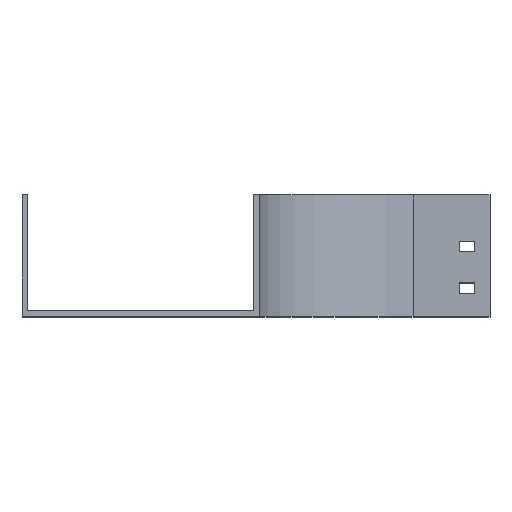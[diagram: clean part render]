
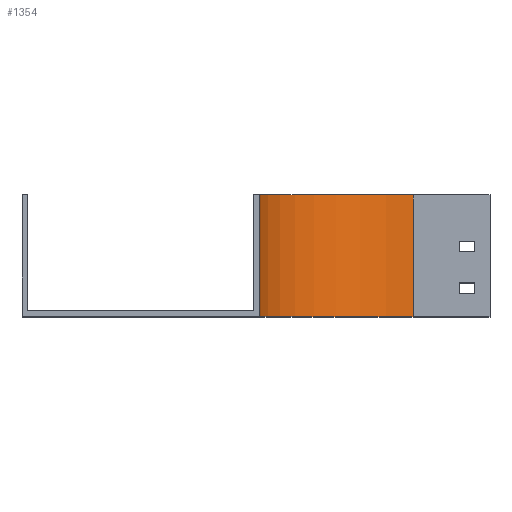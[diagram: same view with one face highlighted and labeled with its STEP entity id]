
A CAD part, top view. The second image highlights one B-rep face of the part: STEP entity #1354.
In plain terms, the highlighted cylindrical face has radius 100 mm (diameter 200 mm), a partial arc.
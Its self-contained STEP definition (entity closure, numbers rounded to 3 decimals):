
#51 = VERTEX_POINT ( 'NONE', #483 ) ;
#130 = DIRECTION ( 'NONE',  ( 0., -1., 0. ) ) ;
#131 = EDGE_CURVE ( 'NONE', #2651, #2428, #1194, .T. ) ;
#151 = DIRECTION ( 'NONE',  ( 0., -1., 0. ) ) ;
#398 = EDGE_CURVE ( 'NONE', #1020, #51, #2728, .T. ) ;
#483 = CARTESIAN_POINT ( 'NONE',  ( 0., 79., -100. ) ) ;
#523 = DIRECTION ( 'NONE',  ( 0., 0., -1. ) ) ;
#563 = LINE ( 'NONE', #986, #2154 ) ;
#579 = AXIS2_PLACEMENT_3D ( 'NONE', #2234, #130, #2008 ) ;
#795 = AXIS2_PLACEMENT_3D ( 'NONE', #1510, #1536, #1304 ) ;
#929 = ORIENTED_EDGE ( 'NONE', *, *, #398, .F. ) ;
#980 = CARTESIAN_POINT ( 'NONE',  ( 0., 0., -100. ) ) ;
#986 = CARTESIAN_POINT ( 'NONE',  ( 0., 79., -100. ) ) ;
#1020 = VERTEX_POINT ( 'NONE', #1529 ) ;
#1124 = EDGE_CURVE ( 'NONE', #1020, #2651, #2212, .T. ) ;
#1194 = CIRCLE ( 'NONE', #2503, 100. ) ;
#1196 = EDGE_CURVE ( 'NONE', #51, #2428, #563, .T. ) ;
#1200 = ORIENTED_EDGE ( 'NONE', *, *, #1124, .T. ) ;
#1304 = DIRECTION ( 'NONE',  ( 0., 0., -1. ) ) ;
#1354 = ADVANCED_FACE ( 'NONE', ( #2220 ), #2653, .F. ) ;
#1510 = CARTESIAN_POINT ( 'NONE',  ( 0., 79., 0. ) ) ;
#1529 = CARTESIAN_POINT ( 'NONE',  ( -100., 79., 0. ) ) ;
#1536 = DIRECTION ( 'NONE',  ( 0., -1., 0. ) ) ;
#1765 = CARTESIAN_POINT ( 'NONE',  ( 0., 0., 0. ) ) ;
#1995 = EDGE_LOOP ( 'NONE', ( #2070, #2534, #929, #1200 ) ) ;
#2008 = DIRECTION ( 'NONE',  ( 0., 0., -1. ) ) ;
#2070 = ORIENTED_EDGE ( 'NONE', *, *, #131, .T. ) ;
#2072 = VECTOR ( 'NONE', #2172, 1000. ) ;
#2154 = VECTOR ( 'NONE', #151, 1000. ) ;
#2172 = DIRECTION ( 'NONE',  ( 0., -1., 0. ) ) ;
#2212 = LINE ( 'NONE', #2584, #2072 ) ;
#2213 = CARTESIAN_POINT ( 'NONE',  ( -100., 0., 0. ) ) ;
#2220 = FACE_OUTER_BOUND ( 'NONE', #1995, .T. ) ;
#2234 = CARTESIAN_POINT ( 'NONE',  ( 0., 79., 0. ) ) ;
#2428 = VERTEX_POINT ( 'NONE', #980 ) ;
#2433 = DIRECTION ( 'NONE',  ( 0., -1., 0. ) ) ;
#2503 = AXIS2_PLACEMENT_3D ( 'NONE', #1765, #2433, #523 ) ;
#2534 = ORIENTED_EDGE ( 'NONE', *, *, #1196, .F. ) ;
#2584 = CARTESIAN_POINT ( 'NONE',  ( -100., 79., 0. ) ) ;
#2651 = VERTEX_POINT ( 'NONE', #2213 ) ;
#2653 = CYLINDRICAL_SURFACE ( 'NONE', #579, 100. ) ;
#2728 = CIRCLE ( 'NONE', #795, 100. ) ;
